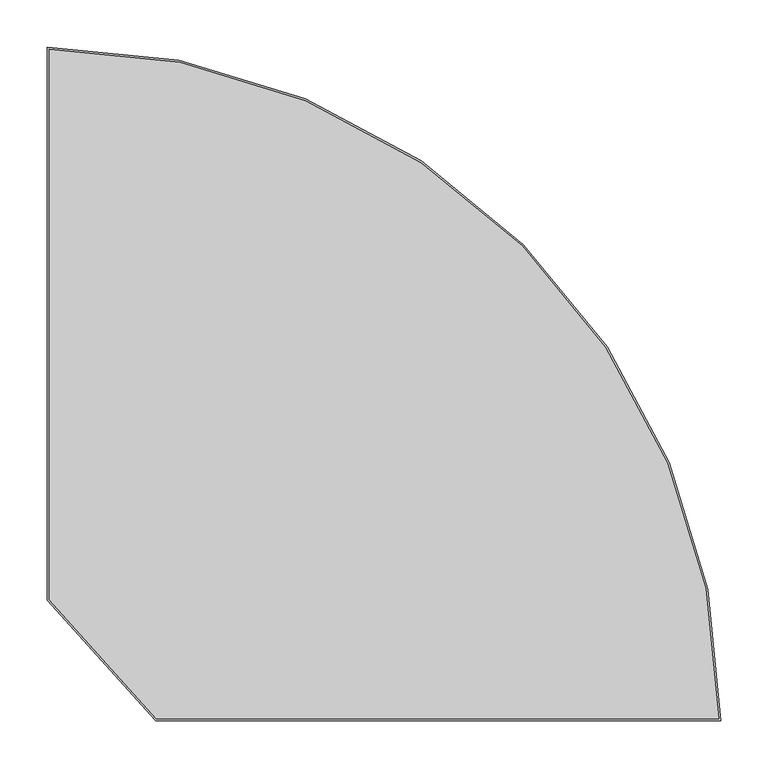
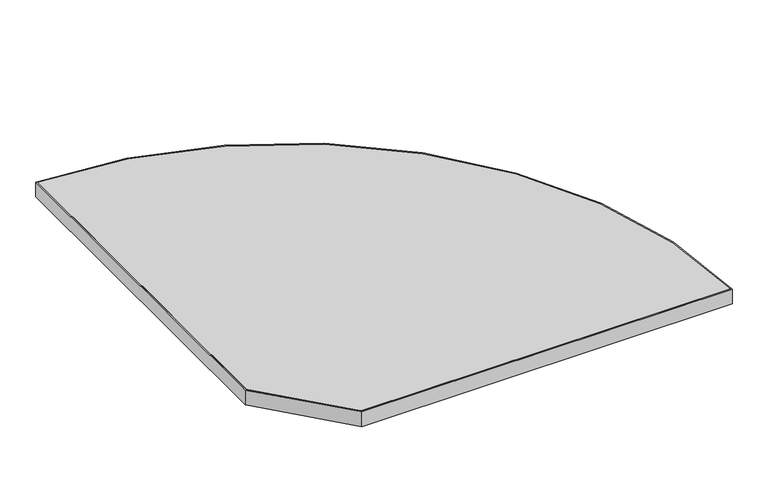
"""IFC4 building model written with IfcOpenShell, lengths in millimetres: furniture geometry, Wieland_HC-Monroe-Corner_Top_Round : 68MNRC2828."""

from ifc_helpers import new_model, si_unit, point, frame, frame_2d, origin, place, context, project, spatial, polyline, circle_curve, trimmed, segment, composite_curve, outline, extrude, source, transform, mapped, element, save


def furniture_022e260d(model_context):
    return source(origin(), model_context, "Body", "SweptSolid", [
        extrude(outline(composite_curve([segment(polyline([(1.984375, -583.4385239), (1.984375, -1.9871511)]), True, "CONTINUOUS"), segment(trimmed(circle_curve(frame_2d((0.0, -711.2)), 709.215625), [point((1.984375, -1.9871511))], [point((709.2128489, -709.215625))], False, "CARTESIAN"), True, "CONTINUOUS"), segment(polyline([(709.2128489, -709.215625), (115.183766, -709.215625), (1.984375, -583.4385239)]), True, "CONTINUOUS")], self_intersect=False)), frame((0.0, 0.0, 317.5), z_axis=(0.0, 0.0, 1.0), x_axis=(1.0, 0.0, 0.0)), (0.0, 0.0, 1.0), 25.4),
        extrude(outline(composite_curve([segment(polyline([(711.2, -711.2), (114.3, -711.2), (0.0, -584.2), (0.0, 0.0)]), True, "CONTINUOUS"), segment(trimmed(circle_curve(frame_2d((0.0, -711.2)), 711.2), [point((0.0, 0.0))], [point((711.2, -711.2))], False, "CARTESIAN"), True, "CONTINUOUS")], self_intersect=False), holes=[composite_curve([segment(trimmed(circle_curve(frame_2d((0.0, -711.2)), 709.215625), [point((709.2128489, -709.215625))], [point((1.984375, -1.9871511))], True, "CARTESIAN"), True, "CONTINUOUS"), segment(polyline([(1.984375, -1.9871511), (1.984375, -583.4385239), (115.183766, -709.215625), (709.2128489, -709.215625)]), True, "CONTINUOUS")], self_intersect=False)]), frame((0.0, 0.0, 317.5), z_axis=(0.0, 0.0, 1.0), x_axis=(1.0, 0.0, 0.0)), (0.0, 0.0, 1.0), 25.4),
    ])


if __name__ == "__main__":
    model = new_model("IFC4")
    model_context = context("Model", 3, world=origin())
    ifc_project = project(units=[si_unit("LENGTHUNIT", "METRE", prefix="MILLI")], contexts=[model_context])
    site = spatial("IfcSite", under=ifc_project)
    building = spatial("IfcBuilding", under=site)
    placement = place(None, origin())
    furniture_shape = furniture_022e260d(model_context)
    element("IfcFurniture", 1, ObjectType="Wieland_HC-Monroe-Corner_Top_Round : 68MNRC2828", at=placement, inside=building, context=model_context, shape_type="MappedRepresentation", body=[
        mapped(furniture_shape, transform((0.0, 0.0, 0.0), x_axis=(1.0, 0.0, 0.0), y_axis=(0.0, 1.0, 0.0), z_axis=(0.0, 0.0, 1.0))),
    ])
    save(model, "model.ifc")
